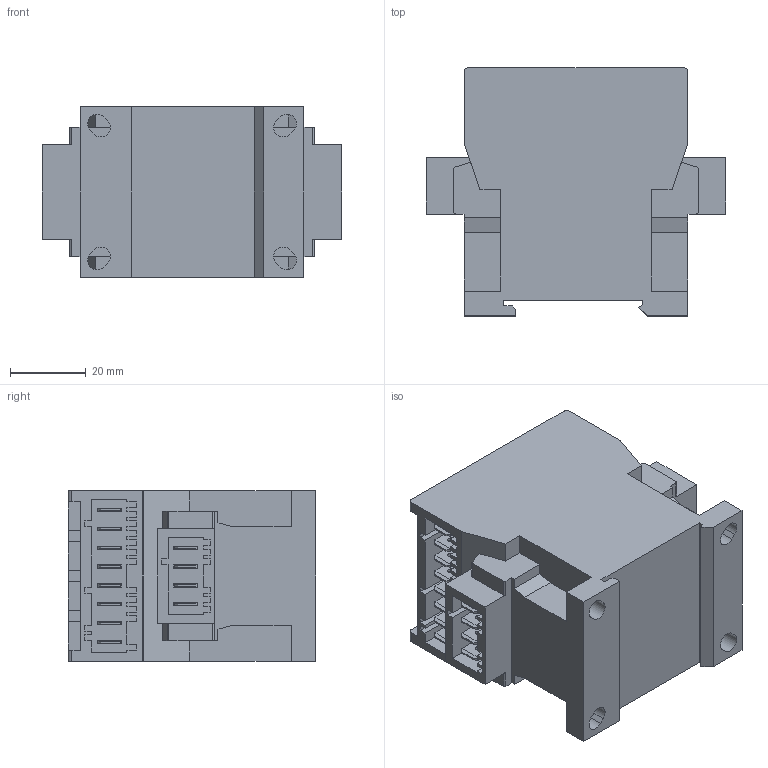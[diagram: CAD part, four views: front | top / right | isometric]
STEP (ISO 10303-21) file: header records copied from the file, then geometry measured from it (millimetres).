
FILE_DESCRIPTION (( 'STEP AP203' ), '1' );
FILE_NAME ('K3-10NR B04B03B04.STEP', '2012-04-13T09:19:55', ( 'schulung' ), ( 'Microsoft' ), 'SwSTEP 2.0', 'SolidWorks 2012', '' );
FILE_SCHEMA (( 'CONFIG_CONTROL_DESIGN' ));
Length unit declared in the file: millimetre
Products named in the file (1): K3-10NR B04B03B04
Bounding box: 78.9 x 65.3 x 45 mm (x, y, z)
Volume: 146449.2 mm3; surface area: 31832.8 mm2
Topology: 1 solids, 1 shells, 563 faces, 1611 edges, 1074 vertices
Faces by surface type: plane 497, cylinder 66
Entity records: 18290 total; most frequent: CARTESIAN_POINT 3249, ORIENTED_EDGE 3222, DIRECTION 2871, EDGE_CURVE 1611, LINE 1479, VECTOR 1479, VERTEX_POINT 1074, AXIS2_PLACEMENT_3D 696
